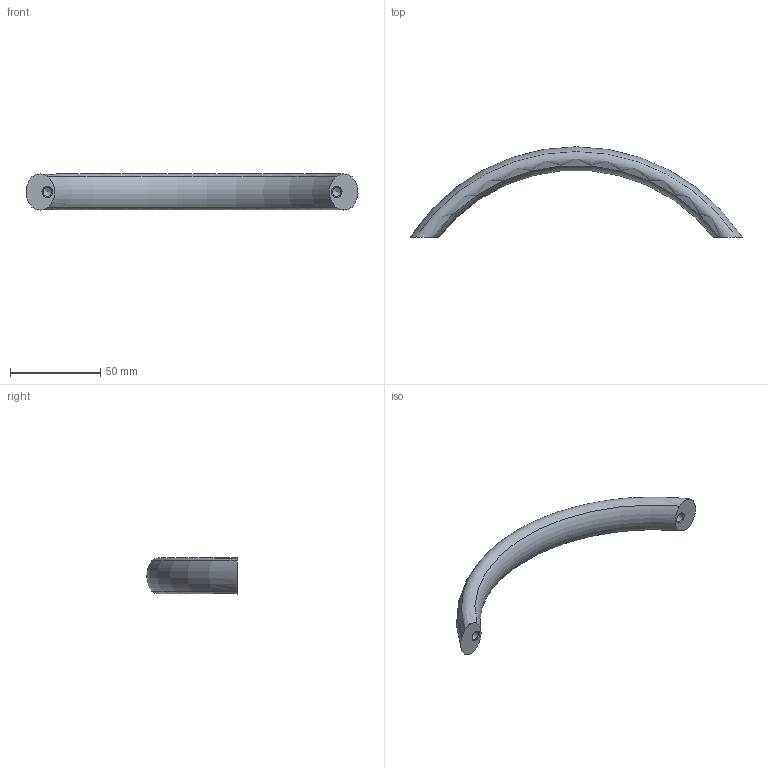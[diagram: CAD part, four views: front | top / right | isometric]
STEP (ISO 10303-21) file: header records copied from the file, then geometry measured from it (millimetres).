
FILE_DESCRIPTION( ( 'STEP AP203' ), '1' );
FILE_NAME( 'C:/Temp/Ganter_Step_05_03_2020/data/1_2/gn565_9/Stainless Steel-Arch handle GN 565.9-20-160-A-MT.stp', '2020-03-05T10:12:28', ( 'License CC BY-ND 4.0' ), ( 'CADENAS' ), ' ', 'PARTsolutions', ' ' );
FILE_SCHEMA( ( 'CONFIG_CONTROL_DESIGN' ) );
Length unit declared in the file: millimetre
Products named in the file (1): _Stainless Steel-Arch handle GN 565.9-20-160-A-MT
Bounding box: 183.68 x 49.97 x 20 mm (x, y, z)
Volume: 39748.6 mm3; surface area: 11169.8 mm2
Topology: 1 solids, 1 shells, 12 faces, 26 edges, 16 vertices
Faces by surface type: cone 4, torus 4, cylinder 2, plane 2
Full cylindrical faces by diameter (mm): 4.917 x2
Entity records: 479 total; most frequent: CARTESIAN_POINT 210, DIRECTION 46, ORIENTED_EDGE 36, AXIS2_PLACEMENT_3D 23, EDGE_LOOP 18, EDGE_CURVE 18, VERTEX_POINT 16, FACE_OUTER_BOUND 14
